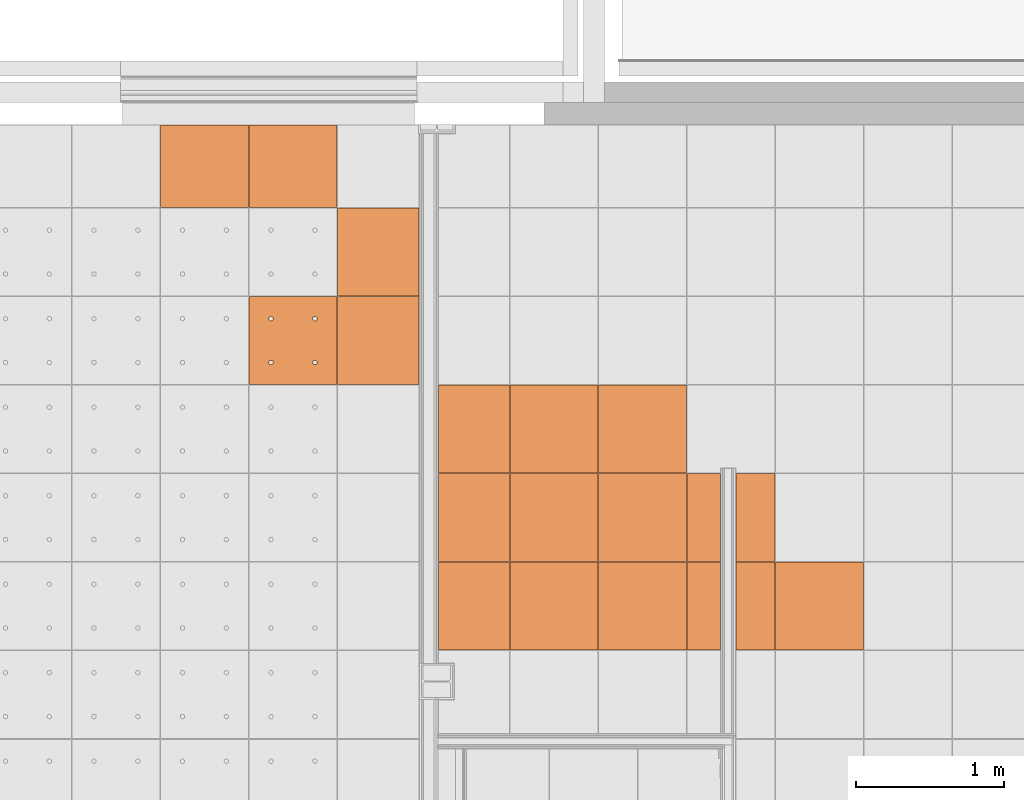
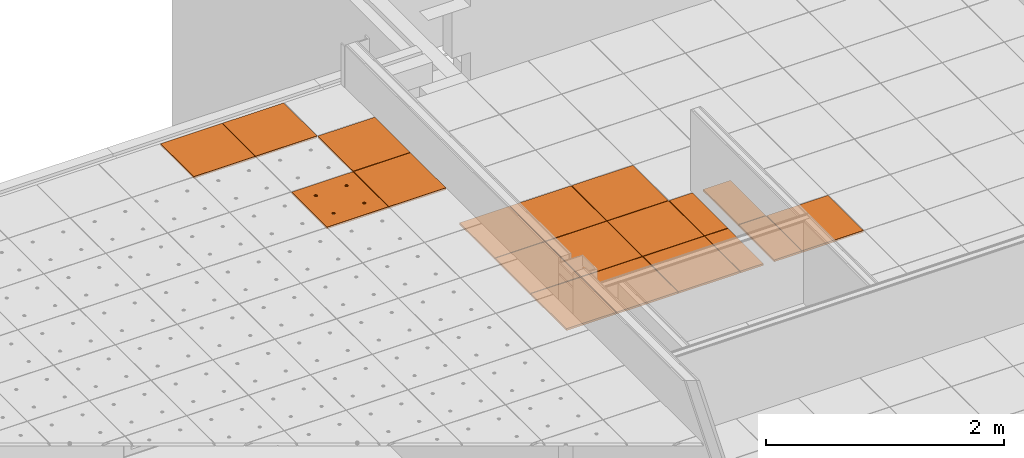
# One storey, part 310 of 338: 19 proxies, 2 elements without a shape of their own.
"""IFC2X3 building model written with IfcOpenShell, lengths in millimetres."""

import ifcopenshell
import ifcopenshell.guid

model = None  # the IFC model being written
_history = None  # IfcOwnerHistory: only IFC2X3 demands one
_inside = {}  # id of a spatial element -> (the spatial element, [elements in it])
_under = {}  # id of a project, library or spatial element -> (it, [spatial elements below it])
_declared = {}  # id of a project -> (the project, [libraries it declares])
_typed = {}  # id of a type object -> (the type object, [elements of that type])
_made_of = {}  # id of a material, layer set ... -> (it, [elements and type objects made of it])


def new_model(schema):
    """Start an empty IFC model of exactly this schema.

    Asked for "IFC4X3", IfcOpenShell would pick the latest addendum, in which some entities
    have other attributes; the version numbers below select the first issue.
    IFC2X3 requires an IfcOwnerHistory on every rooted entity: one is made here for all.
    """
    global model, _history
    if schema == "IFC4X3":
        model = ifcopenshell.file(schema_version=(4, 3, 0, 0))
    else:
        model = ifcopenshell.file(schema=schema)
    _inside.clear()
    _under.clear()
    _declared.clear()
    _typed.clear()
    _made_of.clear()
    _history = None
    if model.schema == "IFC2X3":
        org = make("IfcOrganization", Name="unknown")
        user = make(
            "IfcPersonAndOrganization",
            ThePerson=make("IfcPerson", FamilyName="unknown"),
            TheOrganization=org,
        )
        app = make(
            "IfcApplication",
            ApplicationDeveloper=org,
            Version="unknown",
            ApplicationFullName="unknown",
            ApplicationIdentifier="unknown",
        )
        _history = make(
            "IfcOwnerHistory",
            OwningUser=user,
            OwningApplication=app,
            ChangeAction="ADDED",
            CreationDate=0,
        )
    return model


def make(cls, **values):
    """One entity of the class cls with the attributes given. An attribute that is None is left unset."""
    return model.create_entity(
        cls, **{name: value for name, value in values.items() if value is not None}
    )


def entity(cls, *values):
    """Any entity or typed value of the class cls, its attributes in the order of the schema. None: left unset."""
    e = model.create_entity(cls)
    for i, value in enumerate(values):
        if value is not None:
            e[i] = value
    return e


def rooted(cls, **values):
    """An entity with a GlobalId (a new one), such as an element, a storey or a relation."""
    return make(cls, GlobalId=ifcopenshell.guid.new(), OwnerHistory=_history, **values)


def si_unit(unit_type, name, prefix=None):
    """IfcSIUnit, for example si_unit("LENGTHUNIT", "METRE", prefix="MILLI")."""
    return make("IfcSIUnit", UnitType=unit_type, Prefix=prefix, Name=name)


def converted_unit(unit_type, name, factor, base, dimensions=None, offset=None):
    """IfcConversionBasedUnit, such as the inch: factor (a typed value) times the base unit."""
    return make(
        "IfcConversionBasedUnit"
        if offset is None
        else "IfcConversionBasedUnitWithOffset",
        ConversionOffset=offset,
        Dimensions=None
        if dimensions is None
        else entity("IfcDimensionalExponents", *dimensions),
        UnitType=unit_type,
        Name=name,
        ConversionFactor=make(
            "IfcMeasureWithUnit", ValueComponent=factor, UnitComponent=base
        ),
    )


def derived_unit(unit_type, elements):
    """IfcDerivedUnit: a product of units, each with its exponent."""
    return make(
        "IfcDerivedUnit",
        Elements=[
            make("IfcDerivedUnitElement", Unit=unit, Exponent=power)
            for unit, power in elements
        ],
        UnitType=unit_type,
    )


def money_unit(currency):
    """IfcMonetaryUnit."""
    return make("IfcMonetaryUnit", Currency=currency)


def assignment(units):
    """IfcUnitAssignment: the units of a project."""
    return None if units is None else make("IfcUnitAssignment", Units=units)


def point(xyz):
    """IfcCartesianPoint."""
    return None if xyz is None else make("IfcCartesianPoint", Coordinates=xyz)


def direction(xyz):
    """IfcDirection."""
    return None if xyz is None else make("IfcDirection", DirectionRatios=xyz)


def frame(location, z_axis=None, x_axis=None):
    """IfcAxis2Placement3D, a coordinate frame: its origin and axes. An axis left out is left unset."""
    return make(
        "IfcAxis2Placement3D",
        Location=point(location),
        Axis=direction(z_axis),
        RefDirection=direction(x_axis),
    )


def origin_with_axes():
    """The frame at (0, 0, 0) with the z axis (0, 0, 1) and the x axis (1, 0, 0) written out."""
    return frame((0.0, 0.0, 0.0), z_axis=(0.0, 0.0, 1.0), x_axis=(1.0, 0.0, 0.0))


def place(relative_to, where):
    """IfcLocalPlacement: puts the frame where relative to a parent placement (None: the world)."""
    return make(
        "IfcLocalPlacement", PlacementRelTo=relative_to, RelativePlacement=where
    )


def context(
    kind, dimensions, precision=None, world=None, true_north=None, identifier=None
):
    """IfcGeometricRepresentationContext, for example the 3D "Model" context."""
    return make(
        "IfcGeometricRepresentationContext",
        ContextIdentifier=identifier,
        ContextType=kind,
        CoordinateSpaceDimension=dimensions,
        Precision=precision,
        WorldCoordinateSystem=world,
        TrueNorth=true_north,
    )


def subcontext(parent, identifier, kind, view, scale=None):
    """IfcGeometricRepresentationSubContext, for example "Body" below "Model"."""
    return make(
        "IfcGeometricRepresentationSubContext",
        ContextIdentifier=identifier,
        ContextType=kind,
        ParentContext=parent,
        TargetScale=scale,
        TargetView=view,
    )


def project(units=None, contexts=None):
    """IfcProject with its units and contexts."""
    return rooted(
        "IfcProject",
        Name="project",
        RepresentationContexts=contexts,
        UnitsInContext=assignment(units),
    )


def spatial(cls, under=None, at=None, **own):
    """A site, building, storey or space (cls), placed at a placement, below another one or the project."""
    s = rooted(cls, ObjectPlacement=at, **own)
    if under is not None:
        _under.setdefault(under.id(), (under, []))[1].append(s)
    return s


def faces_of(points, faces, orient=None, outer=None):
    """IfcFace entities. A face is a list of loops; a loop is a list of indices into points, from 0.

    orient and outer hold one flag for each loop. By default every Orientation is true, the
    first loop of a face is its IfcFaceOuterBound and the others are IfcFaceBound.
    """
    made = []
    for i, loops in enumerate(faces):
        bounds = []
        for j, loop in enumerate(loops):
            is_outer = j == 0 if outer is None else outer[i][j]
            bounds.append(
                make(
                    "IfcFaceOuterBound" if is_outer else "IfcFaceBound",
                    Bound=make("IfcPolyLoop", Polygon=[points[k] for k in loop]),
                    Orientation=True if orient is None else orient[i][j],
                )
            )
        made.append(make("IfcFace", Bounds=bounds))
    return made


def faceted_brep(points, faces, orient=None, outer=None, voids=None):
    """IfcFacetedBrep: a solid bounded by flat faces; with voids (closed shells), ...WithVoids."""
    shared = [point(p) for p in points]
    hull = make("IfcClosedShell", CfsFaces=faces_of(shared, faces, orient, outer))
    if voids is None:
        return make("IfcFacetedBrep", Outer=hull)
    return make(
        "IfcFacetedBrepWithVoids",
        Outer=hull,
        Voids=[
            make(cls, CfsFaces=faces_of(shared, fs, o, b)) for cls, fs, o, b in voids
        ],
    )


def shape(context_of_items, identifier, shape_type, items):
    """IfcShapeRepresentation: the items that make up one representation, for example the "Body"."""
    return make(
        "IfcShapeRepresentation",
        ContextOfItems=context_of_items,
        RepresentationIdentifier=identifier,
        RepresentationType=shape_type,
        Items=items,
    )


def source(mapping_origin, context_of_items, identifier, shape_type, items):
    """IfcRepresentationMap: a shape defined once, which mapped items show again and again."""
    return make(
        "IfcRepresentationMap",
        MappingOrigin=mapping_origin,
        MappedRepresentation=shape(context_of_items, identifier, shape_type, items),
    )


def transform(
    local_origin,
    x_axis=None,
    y_axis=None,
    z_axis=None,
    scale=None,
    scale2=None,
    scale3=None,
    uniform=True,
):
    """IfcCartesianTransformationOperator3D, or its non-uniform kind. x_axis, y_axis, z_axis: its Axis1, 2, 3."""
    if uniform:
        return make(
            "IfcCartesianTransformationOperator3D",
            Axis1=direction(x_axis),
            Axis2=direction(y_axis),
            LocalOrigin=point(local_origin),
            Scale=scale,
            Axis3=direction(z_axis),
        )
    return make(
        "IfcCartesianTransformationOperator3DnonUniform",
        Axis1=direction(x_axis),
        Axis2=direction(y_axis),
        LocalOrigin=point(local_origin),
        Scale=scale,
        Axis3=direction(z_axis),
        Scale2=scale2,
        Scale3=scale3,
    )


def mapped(mapping_source, mapping_target):
    """IfcMappedItem: shows the shape of a source again, moved by a transform."""
    return make(
        "IfcMappedItem", MappingSource=mapping_source, MappingTarget=mapping_target
    )


def material(Name=None, Category=None):
    """IfcMaterial."""
    return make("IfcMaterial", Name=Name, Category=Category)


def made_of(thing, what):
    """Note that an element or type object is made of a material, layer set ...; save() writes the relation."""
    if what is not None:
        _made_of.setdefault(what.id(), (what, []))[1].append(thing)
    return thing


def type_object(cls, material=None, **own):
    """A type object (cls), such as IfcWallType, which elements share."""
    return made_of(rooted(cls, **own), material)


def type_shapes(of_type, sources):
    """Give a type object the sources (RepresentationMaps) that its elements show as mapped items."""
    of_type.RepresentationMaps = sources


def element(
    cls,
    number,
    at=None,
    inside=None,
    cuts=None,
    type_object=None,
    material=None,
    context=None,
    identifier="Body",
    shape_type=None,
    held_by="IfcProductDefinitionShape",
    body=None,
    shapes=None,
    **own,
):
    """One element of the class cls, such as IfcWall. Its Tag is "e" and its number.

    at: its placement. inside: the storey or other place that contains it. cuts: it is an
    opening in that element (IfcRelVoidsElement). A single representation is given by context,
    identifier, shape_type and body (its items); several are given by shapes. held_by: the class
    of the entity that holds the representations. save() writes the other relations.
    """
    e = rooted(cls, Tag="e%d" % number, ObjectPlacement=at, **own)
    if body is not None:
        shapes = [shape(context, identifier, shape_type, body)]
    if shapes is not None:
        e.Representation = make(held_by, Representations=shapes)
    if inside is not None:
        _inside.setdefault(inside.id(), (inside, []))[1].append(e)
    if cuts is not None:
        rooted(
            "IfcRelVoidsElement", RelatingBuildingElement=cuts, RelatedOpeningElement=e
        )
    if type_object is not None:
        _typed.setdefault(type_object.id(), (type_object, []))[1].append(e)
    return made_of(e, material)


def aggregate(whole, parts):
    """IfcRelAggregates: a whole, such as a stair, and the parts it consists of."""
    return rooted("IfcRelAggregates", RelatingObject=whole, RelatedObjects=parts)


def save(model, path):
    """Write the relations noted so far, then the file.

    IfcRelAggregates (storeys below a building ...), IfcRelContainedInSpatialStructure (elements
    in a storey), IfcRelDefinesByType, IfcRelAssociatesMaterial and IfcRelDeclares: one each for
    every whole, place, type object, material and project.
    """
    for whole, parts in _under.values():
        aggregate(whole, parts)
    for where, things in _inside.values():
        rooted(
            "IfcRelContainedInSpatialStructure",
            RelatedElements=things,
            RelatingStructure=where,
        )
    for kind, things in _typed.values():
        rooted("IfcRelDefinesByType", RelatedObjects=things, RelatingType=kind)
    for what, things in _made_of.values():
        rooted("IfcRelAssociatesMaterial", RelatedObjects=things, RelatingMaterial=what)
    for by, libraries in _declared.values():
        rooted("IfcRelDeclares", RelatingContext=by, RelatedDefinitions=libraries)
    model.write(path)


model = new_model("IFC2X3")

# Units and contexts
model_context = context("Model", 3, precision=0.01, world=origin_with_axes(), true_north=direction((0.0, 1.0)))
plan_context = context("Plan", 3, precision=0.01, world=origin_with_axes(), true_north=direction((0.0, 1.0)))
body_context = subcontext(model_context, "Body", "Model", "MODEL_VIEW")
ifc_project = project(units=[si_unit("LENGTHUNIT", "METRE", prefix="MILLI"), si_unit("AREAUNIT", "SQUARE_METRE"), si_unit("VOLUMEUNIT", "CUBIC_METRE"), converted_unit("PLANEANGLEUNIT", "DEGREE", entity("IfcPlaneAngleMeasure", 0.0174532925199), si_unit("PLANEANGLEUNIT", "RADIAN"), dimensions=[0, 0, 0, 0, 0, 0, 0]), money_unit("EUR"), converted_unit("TIMEUNIT", "Year", entity("IfcTimeMeasure", 31556926.0), si_unit("TIMEUNIT", "SECOND"), dimensions=[0, 0, 1, 0, 0, 0, 0]), si_unit("MASSUNIT", "GRAM", prefix="KILO"), si_unit("THERMODYNAMICTEMPERATUREUNIT", "DEGREE_CELSIUS"), si_unit("LUMINOUSINTENSITYUNIT", "LUMEN"), si_unit("ENERGYUNIT", "JOULE", prefix="MEGA"), derived_unit("THERMALCONDUCTANCEUNIT", [(si_unit("POWERUNIT", "WATT"), 1), (si_unit("LENGTHUNIT", "METRE"), -1), (si_unit("THERMODYNAMICTEMPERATUREUNIT", "KELVIN"), -1)]), derived_unit("SPECIFICHEATCAPACITYUNIT", [(si_unit("ENERGYUNIT", "JOULE"), 1), (si_unit("MASSUNIT", "GRAM", prefix="KILO"), -1), (si_unit("THERMODYNAMICTEMPERATUREUNIT", "KELVIN"), -1)]), derived_unit("MASSDENSITYUNIT", [(si_unit("MASSUNIT", "GRAM", prefix="KILO"), 1), (si_unit("VOLUMEUNIT", "CUBIC_METRE"), -1)])], contexts=[model_context, plan_context])

# Site, building, storey
site_placement = place(None, origin_with_axes())
site = spatial("IfcSite", under=ifc_project, at=site_placement, Name="Fortuinstraat Woensdrecht", CompositionType="ELEMENT")
building_placement = place(site_placement, origin_with_axes())
building = spatial("IfcBuilding", under=site, at=building_placement, Name="IKC Fortuna", CompositionType="ELEMENT")
storey_placement = place(building_placement, origin_with_axes())
storey = spatial("IfcBuildingStorey", under=building, at=storey_placement, Name="00 begane grond", CompositionType="ELEMENT", Elevation=0.0)

# Covering, proxies
covering_type = type_object("IfcCoveringType", Name="Curtain Wall Type", PredefinedType="CEILING")
covering_1_placement = place(storey_placement, frame((34473.6590305, 30882.3889696, 2810.0), z_axis=(0.0, 0.0, 1.0), x_axis=(1.0, 0.0, 0.0)))
covering_1 = element("IfcCovering", 1, at=covering_1_placement, inside=storey, type_object=covering_type, Name="45_Plafondafwerking_P02 v", PredefinedType="CEILING")
ifc_material = material(Name="Gipsplaat")
building_element_proxy_type_1 = type_object("IfcBuildingElementProxyType", Name="Distinct Panel 600 x 600 x 20", PredefinedType="NOTDEFINED")
shared_shape_1 = source(origin_with_axes(), body_context, "Body", "Brep", [
    faceted_brep([(-2.49999999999, 2.5, -10.0), (-2.49999999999, 2.5, 10.0), (-597.5, 2.49999999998, 10.0), (-597.5, 2.49999999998, -10.0), (-2.50000000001, 597.5, -10.0), (-2.50000000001, 597.5, 10.0), (-597.5, 597.5, 10.0), (-597.5, 597.5, -10.0)], [[[0, 1, 2, 3]], [[4, 5, 1, 0]], [[1, 5, 6, 2]], [[3, 2, 6, 7]], [[0, 3, 7, 4]], [[7, 6, 5, 4]]]),
])
type_shapes(building_element_proxy_type_1, [shared_shape_1])
proxy_1_placement = place(covering_1_placement, frame((-4709.76800248, 2400.0, 0.0), z_axis=(0.0, 0.0, 1.0), x_axis=(1.0, 0.0, 0.0)))
proxy_1 = element("IfcBuildingElementProxy", 2, at=proxy_1_placement, type_object=building_element_proxy_type_1, material=ifc_material, Name="__Panel-D", context=body_context, shape_type="MappedRepresentation", body=[
    mapped(shared_shape_1, transform((-300.0, 300.0, 0.0), x_axis=(-1.0, 0.0, 0.0), y_axis=(0.0, -1.0, 0.0), z_axis=(0.0, 0.0, 1.0))),
])
proxy_2_placement = place(covering_1_placement, frame((-4709.76800248, 1800.0, 0.0), z_axis=(0.0, 0.0, 1.0), x_axis=(1.0, 0.0, 0.0)))
proxy_2 = element("IfcBuildingElementProxy", 3, at=proxy_2_placement, type_object=building_element_proxy_type_1, material=ifc_material, Name="__Panel-D", context=body_context, shape_type="MappedRepresentation", body=[
    mapped(shared_shape_1, transform((-300.0, 300.0, 0.0), x_axis=(-1.0, 0.0, 0.0), y_axis=(0.0, -1.0, 0.0), z_axis=(0.0, 0.0, 1.0))),
])
proxy_3_placement = place(covering_1_placement, frame((-4709.76800248, 1200.0, 0.0), z_axis=(0.0, 0.0, 1.0), x_axis=(1.0, 0.0, 0.0)))
proxy_3 = element("IfcBuildingElementProxy", 4, at=proxy_3_placement, type_object=building_element_proxy_type_1, material=ifc_material, Name="__Panel-D", context=body_context, shape_type="MappedRepresentation", body=[
    mapped(shared_shape_1, transform((-300.0, 300.0, 0.0), x_axis=(-1.0, 0.0, 0.0), y_axis=(0.0, -1.0, 0.0), z_axis=(0.0, 0.0, 1.0))),
])
proxy_4_placement = place(covering_1_placement, frame((-4109.76800248, 2400.0, 0.0), z_axis=(0.0, 0.0, 1.0), x_axis=(1.0, 0.0, 0.0)))
proxy_4 = element("IfcBuildingElementProxy", 5, at=proxy_4_placement, type_object=building_element_proxy_type_1, material=ifc_material, Name="__Panel-D", context=body_context, shape_type="MappedRepresentation", body=[
    mapped(shared_shape_1, transform((-300.0, 300.0, 0.0), x_axis=(-1.0, 0.0, 0.0), y_axis=(0.0, -1.0, 0.0), z_axis=(0.0, 0.0, 1.0))),
])
proxy_5_placement = place(covering_1_placement, frame((-4109.76800248, 1800.0, 0.0), z_axis=(0.0, 0.0, 1.0), x_axis=(1.0, 0.0, 0.0)))
proxy_5 = element("IfcBuildingElementProxy", 6, at=proxy_5_placement, type_object=building_element_proxy_type_1, material=ifc_material, Name="__Panel-D", context=body_context, shape_type="MappedRepresentation", body=[
    mapped(shared_shape_1, transform((-300.0, 300.0, 0.0), x_axis=(-1.0, 0.0, 0.0), y_axis=(0.0, -1.0, 0.0), z_axis=(0.0, 0.0, 1.0))),
])
proxy_6_placement = place(covering_1_placement, frame((-4109.76800248, 1200.0, 0.0), z_axis=(0.0, 0.0, 1.0), x_axis=(1.0, 0.0, 0.0)))
proxy_6 = element("IfcBuildingElementProxy", 7, at=proxy_6_placement, type_object=building_element_proxy_type_1, material=ifc_material, Name="__Panel-D", context=body_context, shape_type="MappedRepresentation", body=[
    mapped(shared_shape_1, transform((-300.0, 300.0, 0.0), x_axis=(-1.0, 0.0, 0.0), y_axis=(0.0, -1.0, 0.0), z_axis=(0.0, 0.0, 1.0))),
])
proxy_7_placement = place(covering_1_placement, frame((-2909.76800248, 1200.0, 0.0), z_axis=(0.0, 0.0, 1.0), x_axis=(1.0, 0.0, 0.0)))
proxy_7 = element("IfcBuildingElementProxy", 8, at=proxy_7_placement, type_object=building_element_proxy_type_1, material=ifc_material, Name="__Panel-D", context=body_context, shape_type="MappedRepresentation", body=[
    mapped(shared_shape_1, transform((-300.0, 300.0, 0.0), x_axis=(-1.0, 0.0, 0.0), y_axis=(0.0, -1.0, 0.0), z_axis=(0.0, 0.0, 1.0))),
])

# Covering, proxy
covering_2_placement = place(storey_placement, frame((24394.3550152, 31482.3495284, 3210.0), z_axis=(0.0, 0.0, 1.0), x_axis=(1.0, 0.0, 0.0)))
covering_2 = element("IfcCovering", 9, at=covering_2_placement, inside=storey, type_object=covering_type, Name="45_Plafondafwerking_P01", PredefinedType="CEILING")
building_element_proxy_type_2 = type_object("IfcBuildingElementProxyType", Name="Main Panel 600 x 600 x 20", PredefinedType="NOTDEFINED")
shared_shape_2 = source(origin_with_axes(), body_context, "Body", "Brep", [
    faceted_brep([(2.49999999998, 2.49999999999, -10.0), (300.0, 2.49999999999, -10.0), (300.0, 2.49999999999, 10.0), (2.49999999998, 2.49999999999, 10.0), (2.49999999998, 300.0, -10.0), (2.49999999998, 597.5, -10.0), (300.0, 597.5, -10.0), (597.5, 597.5, -10.0), (597.5, 300.0, -10.0), (597.5, 2.49999999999, -10.0), (166.25, 450.06232995, -10.0), (165.79423259, 452.64711538, -10.0), (164.896546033, 455.11348892, -10.0), (163.58421608, 457.38651108, -10.0), (161.897117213, 459.39711721, -10.0), (159.886511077, 461.08421608, -10.0), (157.613488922, 462.39654603, -10.0), (155.147115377, 463.29423259, -10.0), (152.562329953, 463.75, -10.0), (149.937670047, 463.75, -10.0), (147.352884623, 463.29423259, -10.0), (144.886511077, 462.39654603, -10.0), (142.613488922, 461.08421608, -10.0), (140.602882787, 459.39711721, -10.0), (138.91578392, 457.38651108, -10.0), (137.603453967, 455.11348892, -10.0), (136.705767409, 452.64711538, -10.0), (136.25, 450.06232995, -10.0), (136.25, 448.75, -10.0), (136.25, 447.43767005, -10.0), (136.705767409, 444.85288462, -10.0), (137.603453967, 442.38651108, -10.0), (138.91578392, 440.11348892, -10.0), (140.602882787, 438.10288279, -10.0), (142.613488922, 436.41578392, -10.0), (144.886511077, 435.10345397, -10.0), (147.352884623, 434.20576741, -10.0), (149.937670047, 433.75, -10.0), (152.562329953, 433.75, -10.0), (155.147115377, 434.20576741, -10.0), (157.613488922, 435.10345397, -10.0), (159.886511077, 436.41578392, -10.0), (161.897117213, 438.10288279, -10.0), (163.58421608, 440.11348892, -10.0), (164.896546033, 442.38651108, -10.0), (165.79423259, 444.85288462, -10.0), (166.25, 447.43767005, -10.0), (463.75, 450.06232995, -10.0), (463.29423259, 452.64711538, -10.0), (462.396546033, 455.11348892, -10.0), (461.08421608, 457.38651108, -10.0), (459.397117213, 459.39711721, -10.0), (457.386511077, 461.08421608, -10.0), (455.113488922, 462.39654603, -10.0), (452.647115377, 463.29423259, -10.0), (450.062329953, 463.75, -10.0), (447.437670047, 463.75, -10.0), (444.852884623, 463.29423259, -10.0), (442.386511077, 462.39654603, -10.0), (440.113488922, 461.08421608, -10.0), (438.102882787, 459.39711721, -10.0), (436.41578392, 457.38651108, -10.0), (435.103453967, 455.11348892, -10.0), (434.205767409, 452.64711538, -10.0), (433.75, 450.06232995, -10.0), (433.75, 448.75, -10.0), (433.75, 447.43767005, -10.0), (434.205767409, 444.85288462, -10.0), (435.103453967, 442.38651108, -10.0), (436.41578392, 440.11348892, -10.0), (438.102882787, 438.10288279, -10.0), (440.113488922, 436.41578392, -10.0), (442.386511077, 435.10345397, -10.0), (444.852884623, 434.20576741, -10.0), (447.437670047, 433.75, -10.0), (450.062329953, 433.75, -10.0), (452.647115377, 434.20576741, -10.0), (455.113488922, 435.10345397, -10.0), (457.386511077, 436.41578392, -10.0), (459.397117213, 438.10288279, -10.0), (461.08421608, 440.11348892, -10.0), (462.396546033, 442.38651108, -10.0), (463.29423259, 444.85288462, -10.0), (463.75, 447.43767005, -10.0), (463.75, 152.56232995, -10.0), (463.29423259, 155.14711538, -10.0), (462.396546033, 157.61348892, -10.0), (461.08421608, 159.88651108, -10.0), (459.397117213, 161.89711721, -10.0), (457.386511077, 163.58421608, -10.0), (455.113488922, 164.89654603, -10.0), (452.647115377, 165.79423259, -10.0), (450.062329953, 166.25, -10.0), (447.437670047, 166.25, -10.0), (444.852884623, 165.79423259, -10.0), (442.386511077, 164.89654603, -10.0), (440.113488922, 163.58421608, -10.0), (438.102882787, 161.89711721, -10.0), (436.41578392, 159.88651108, -10.0), (435.103453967, 157.61348892, -10.0), (434.205767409, 155.14711538, -10.0), (433.75, 152.56232995, -10.0), (433.75, 151.25, -10.0), (433.75, 149.93767005, -10.0), (434.205767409, 147.35288462, -10.0), (435.103453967, 144.88651108, -10.0), (436.41578392, 142.61348892, -10.0), (438.102882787, 140.60288279, -10.0), (440.113488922, 138.91578392, -10.0), (442.386511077, 137.60345397, -10.0), (444.852884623, 136.70576741, -10.0), (447.437670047, 136.25, -10.0), (450.062329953, 136.25, -10.0), (452.647115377, 136.70576741, -10.0), (455.113488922, 137.60345397, -10.0), (457.386511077, 138.91578392, -10.0), (459.397117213, 140.60288279, -10.0), (461.08421608, 142.61348892, -10.0), (462.396546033, 144.88651108, -10.0), (463.29423259, 147.35288462, -10.0), (463.75, 149.93767005, -10.0), (166.25, 152.56232995, -10.0), (165.79423259, 155.14711538, -10.0), (164.896546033, 157.61348892, -10.0), (163.58421608, 159.88651108, -10.0), (161.897117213, 161.89711721, -10.0), (159.886511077, 163.58421608, -10.0), (157.613488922, 164.89654603, -10.0), (155.147115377, 165.79423259, -10.0), (152.562329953, 166.25, -10.0), (149.937670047, 166.25, -10.0), (147.352884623, 165.79423259, -10.0), (144.886511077, 164.89654603, -10.0), (142.613488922, 163.58421608, -10.0), (140.602882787, 161.89711721, -10.0), (138.91578392, 159.88651108, -10.0), (137.603453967, 157.61348892, -10.0), (136.705767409, 155.14711538, -10.0), (136.25, 152.56232995, -10.0), (136.25, 151.25, -10.0), (136.25, 149.93767005, -10.0), (136.705767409, 147.35288462, -10.0), (137.603453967, 144.88651108, -10.0), (138.91578392, 142.61348892, -10.0), (140.602882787, 140.60288279, -10.0), (142.613488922, 138.91578392, -10.0), (144.886511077, 137.60345397, -10.0), (147.352884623, 136.70576741, -10.0), (149.937670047, 136.25, -10.0), (152.562329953, 136.25, -10.0), (155.147115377, 136.70576741, -10.0), (157.613488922, 137.60345397, -10.0), (159.886511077, 138.91578392, -10.0), (161.897117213, 140.60288279, -10.0), (163.58421608, 142.61348892, -10.0), (164.896546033, 144.88651108, -10.0), (165.79423259, 147.35288462, -10.0), (166.25, 149.93767005, -10.0), (597.5, 2.49999999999, 10.0), (597.5, 300.0, 10.0), (597.5, 597.5, 10.0), (300.0, 597.5, 10.0), (2.49999999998, 597.5, 10.0), (2.49999999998, 300.0, 10.0), (166.25, 450.06232995, 10.0), (166.25, 447.43767005, 10.0), (165.79423259, 444.85288462, 10.0), (164.896546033, 442.38651108, 10.0), (163.58421608, 440.11348892, 10.0), (161.897117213, 438.10288279, 10.0), (159.886511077, 436.41578392, 10.0), (157.613488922, 435.10345397, 10.0), (155.147115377, 434.20576741, 10.0), (152.562329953, 433.75, 10.0), (149.937670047, 433.75, 10.0), (147.352884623, 434.20576741, 10.0), (144.886511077, 435.10345397, 10.0), (142.613488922, 436.41578392, 10.0), (140.602882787, 438.10288279, 10.0), (138.91578392, 440.11348892, 10.0), (137.603453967, 442.38651108, 10.0), (136.705767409, 444.85288462, 10.0), (136.25, 447.43767005, 10.0), (136.25, 448.75, 10.0), (136.25, 450.06232995, 10.0), (136.705767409, 452.64711538, 10.0), (137.603453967, 455.11348892, 10.0), (138.91578392, 457.38651108, 10.0), (140.602882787, 459.39711721, 10.0), (142.613488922, 461.08421608, 10.0), (144.886511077, 462.39654603, 10.0), (147.352884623, 463.29423259, 10.0), (149.937670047, 463.75, 10.0), (152.562329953, 463.75, 10.0), (155.147115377, 463.29423259, 10.0), (157.613488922, 462.39654603, 10.0), (159.886511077, 461.08421608, 10.0), (161.897117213, 459.39711721, 10.0), (163.58421608, 457.38651108, 10.0), (164.896546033, 455.11348892, 10.0), (165.79423259, 452.64711538, 10.0), (463.75, 450.06232995, 10.0), (463.75, 447.43767005, 10.0), (463.29423259, 444.85288462, 10.0), (462.396546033, 442.38651108, 10.0), (461.08421608, 440.11348892, 10.0), (459.397117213, 438.10288279, 10.0), (457.386511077, 436.41578392, 10.0), (455.113488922, 435.10345397, 10.0), (452.647115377, 434.20576741, 10.0), (450.062329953, 433.75, 10.0), (447.437670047, 433.75, 10.0), (444.852884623, 434.20576741, 10.0), (442.386511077, 435.10345397, 10.0), (440.113488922, 436.41578392, 10.0), (438.102882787, 438.10288279, 10.0), (436.41578392, 440.11348892, 10.0), (435.103453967, 442.38651108, 10.0), (434.205767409, 444.85288462, 10.0), (433.75, 447.43767005, 10.0), (433.75, 448.75, 10.0), (433.75, 450.06232995, 10.0), (434.205767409, 452.64711538, 10.0), (435.103453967, 455.11348892, 10.0), (436.41578392, 457.38651108, 10.0), (438.102882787, 459.39711721, 10.0), (440.113488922, 461.08421608, 10.0), (442.386511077, 462.39654603, 10.0), (444.852884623, 463.29423259, 10.0), (447.437670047, 463.75, 10.0), (450.062329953, 463.75, 10.0), (452.647115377, 463.29423259, 10.0), (455.113488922, 462.39654603, 10.0), (457.386511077, 461.08421608, 10.0), (459.397117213, 459.39711721, 10.0), (461.08421608, 457.38651108, 10.0), (462.396546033, 455.11348892, 10.0), (463.29423259, 452.64711538, 10.0), (463.75, 152.56232995, 10.0), (463.75, 149.93767005, 10.0), (463.29423259, 147.35288462, 10.0), (462.396546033, 144.88651108, 10.0), (461.08421608, 142.61348892, 10.0), (459.397117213, 140.60288279, 10.0), (457.386511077, 138.91578392, 10.0), (455.113488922, 137.60345397, 10.0), (452.647115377, 136.70576741, 10.0), (450.062329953, 136.25, 10.0), (447.437670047, 136.25, 10.0), (444.852884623, 136.70576741, 10.0), (442.386511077, 137.60345397, 10.0), (440.113488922, 138.91578392, 10.0), (438.102882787, 140.60288279, 10.0), (436.41578392, 142.61348892, 10.0), (435.103453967, 144.88651108, 10.0), (434.205767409, 147.35288462, 10.0), (433.75, 149.93767005, 10.0), (433.75, 151.25, 10.0), (433.75, 152.56232995, 10.0), (434.205767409, 155.14711538, 10.0), (435.103453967, 157.61348892, 10.0), (436.41578392, 159.88651108, 10.0), (438.102882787, 161.89711721, 10.0), (440.113488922, 163.58421608, 10.0), (442.386511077, 164.89654603, 10.0), (444.852884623, 165.79423259, 10.0), (447.437670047, 166.25, 10.0), (450.062329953, 166.25, 10.0), (452.647115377, 165.79423259, 10.0), (455.113488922, 164.89654603, 10.0), (457.386511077, 163.58421608, 10.0), (459.397117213, 161.89711721, 10.0), (461.08421608, 159.88651108, 10.0), (462.396546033, 157.61348892, 10.0), (463.29423259, 155.14711538, 10.0), (166.25, 152.56232995, 10.0), (166.25, 149.93767005, 10.0), (165.79423259, 147.35288462, 10.0), (164.896546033, 144.88651108, 10.0), (163.58421608, 142.61348892, 10.0), (161.897117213, 140.60288279, 10.0), (159.886511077, 138.91578392, 10.0), (157.613488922, 137.60345397, 10.0), (155.147115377, 136.70576741, 10.0), (152.562329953, 136.25, 10.0), (149.937670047, 136.25, 10.0), (147.352884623, 136.70576741, 10.0), (144.886511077, 137.60345397, 10.0), (142.613488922, 138.91578392, 10.0), (140.602882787, 140.60288279, 10.0), (138.91578392, 142.61348892, 10.0), (137.603453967, 144.88651108, 10.0), (136.705767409, 147.35288462, 10.0), (136.25, 149.93767005, 10.0), (136.25, 151.25, 10.0), (136.25, 152.56232995, 10.0), (136.705767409, 155.14711538, 10.0), (137.603453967, 157.61348892, 10.0), (138.91578392, 159.88651108, 10.0), (140.602882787, 161.89711721, 10.0), (142.613488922, 163.58421608, 10.0), (144.886511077, 164.89654603, 10.0), (147.352884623, 165.79423259, 10.0), (149.937670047, 166.25, 10.0), (152.562329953, 166.25, 10.0), (155.147115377, 165.79423259, 10.0), (157.613488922, 164.89654603, 10.0), (159.886511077, 163.58421608, 10.0), (161.897117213, 161.89711721, 10.0), (163.58421608, 159.88651108, 10.0), (164.896546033, 157.61348892, 10.0), (165.79423259, 155.14711538, 10.0)], [[[0, 1, 2, 3]], [[0, 4, 5, 6, 7, 8, 9, 1], [10, 11, 12, 13, 14, 15, 16, 17, 18, 19, 20, 21, 22, 23, 24, 25, 26, 27, 28, 29, 30, 31, 32, 33, 34, 35, 36, 37, 38, 39, 40, 41, 42, 43, 44, 45, 46], [47, 48, 49, 50, 51, 52, 53, 54, 55, 56, 57, 58, 59, 60, 61, 62, 63, 64, 65, 66, 67, 68, 69, 70, 71, 72, 73, 74, 75, 76, 77, 78, 79, 80, 81, 82, 83], [84, 85, 86, 87, 88, 89, 90, 91, 92, 93, 94, 95, 96, 97, 98, 99, 100, 101, 102, 103, 104, 105, 106, 107, 108, 109, 110, 111, 112, 113, 114, 115, 116, 117, 118, 119, 120], [121, 122, 123, 124, 125, 126, 127, 128, 129, 130, 131, 132, 133, 134, 135, 136, 137, 138, 139, 140, 141, 142, 143, 144, 145, 146, 147, 148, 149, 150, 151, 152, 153, 154, 155, 156, 157]], [[1, 9, 158, 2]], [[3, 2, 158, 159, 160, 161, 162, 163], [164, 165, 166, 167, 168, 169, 170, 171, 172, 173, 174, 175, 176, 177, 178, 179, 180, 181, 182, 183, 184, 185, 186, 187, 188, 189, 190, 191, 192, 193, 194, 195, 196, 197, 198, 199, 200], [201, 202, 203, 204, 205, 206, 207, 208, 209, 210, 211, 212, 213, 214, 215, 216, 217, 218, 219, 220, 221, 222, 223, 224, 225, 226, 227, 228, 229, 230, 231, 232, 233, 234, 235, 236, 237], [238, 239, 240, 241, 242, 243, 244, 245, 246, 247, 248, 249, 250, 251, 252, 253, 254, 255, 256, 257, 258, 259, 260, 261, 262, 263, 264, 265, 266, 267, 268, 269, 270, 271, 272, 273, 274], [275, 276, 277, 278, 279, 280, 281, 282, 283, 284, 285, 286, 287, 288, 289, 290, 291, 292, 293, 294, 295, 296, 297, 298, 299, 300, 301, 302, 303, 304, 305, 306, 307, 308, 309, 310, 311]], [[4, 0, 3, 163]], [[5, 4, 163, 162]], [[6, 5, 162, 161]], [[7, 6, 161, 160]], [[8, 7, 160, 159]], [[9, 8, 159, 158]], [[11, 10, 164, 200]], [[12, 11, 200, 199]], [[13, 12, 199, 198]], [[14, 13, 198, 197]], [[15, 14, 197, 196]], [[16, 15, 196, 195]], [[17, 16, 195, 194]], [[18, 17, 194, 193]], [[19, 18, 193, 192]], [[20, 19, 192, 191]], [[21, 20, 191, 190]], [[22, 21, 190, 189]], [[23, 22, 189, 188]], [[24, 23, 188, 187]], [[25, 24, 187, 186]], [[26, 25, 186, 185]], [[27, 26, 185, 184]], [[28, 27, 184, 183]], [[29, 28, 183, 182]], [[30, 29, 182, 181]], [[31, 30, 181, 180]], [[32, 31, 180, 179]], [[33, 32, 179, 178]], [[34, 33, 178, 177]], [[35, 34, 177, 176]], [[36, 35, 176, 175]], [[37, 36, 175, 174]], [[38, 37, 174, 173]], [[39, 38, 173, 172]], [[40, 39, 172, 171]], [[41, 40, 171, 170]], [[42, 41, 170, 169]], [[43, 42, 169, 168]], [[44, 43, 168, 167]], [[45, 44, 167, 166]], [[46, 45, 166, 165]], [[10, 46, 165, 164]], [[48, 47, 201, 237]], [[49, 48, 237, 236]], [[50, 49, 236, 235]], [[51, 50, 235, 234]], [[52, 51, 234, 233]], [[53, 52, 233, 232]], [[54, 53, 232, 231]], [[55, 54, 231, 230]], [[56, 55, 230, 229]], [[57, 56, 229, 228]], [[58, 57, 228, 227]], [[59, 58, 227, 226]], [[60, 59, 226, 225]], [[61, 60, 225, 224]], [[62, 61, 224, 223]], [[63, 62, 223, 222]], [[64, 63, 222, 221]], [[65, 64, 221, 220]], [[66, 65, 220, 219]], [[67, 66, 219, 218]], [[68, 67, 218, 217]], [[69, 68, 217, 216]], [[70, 69, 216, 215]], [[71, 70, 215, 214]], [[72, 71, 214, 213]], [[73, 72, 213, 212]], [[74, 73, 212, 211]], [[75, 74, 211, 210]], [[76, 75, 210, 209]], [[77, 76, 209, 208]], [[78, 77, 208, 207]], [[79, 78, 207, 206]], [[80, 79, 206, 205]], [[81, 80, 205, 204]], [[82, 81, 204, 203]], [[83, 82, 203, 202]], [[47, 83, 202, 201]], [[85, 84, 238, 274]], [[86, 85, 274, 273]], [[87, 86, 273, 272]], [[88, 87, 272, 271]], [[89, 88, 271, 270]], [[90, 89, 270, 269]], [[91, 90, 269, 268]], [[92, 91, 268, 267]], [[93, 92, 267, 266]], [[94, 93, 266, 265]], [[95, 94, 265, 264]], [[96, 95, 264, 263]], [[97, 96, 263, 262]], [[98, 97, 262, 261]], [[99, 98, 261, 260]], [[100, 99, 260, 259]], [[101, 100, 259, 258]], [[102, 101, 258, 257]], [[103, 102, 257, 256]], [[104, 103, 256, 255]], [[105, 104, 255, 254]], [[106, 105, 254, 253]], [[107, 106, 253, 252]], [[108, 107, 252, 251]], [[109, 108, 251, 250]], [[110, 109, 250, 249]], [[111, 110, 249, 248]], [[112, 111, 248, 247]], [[113, 112, 247, 246]], [[114, 113, 246, 245]], [[115, 114, 245, 244]], [[116, 115, 244, 243]], [[117, 116, 243, 242]], [[118, 117, 242, 241]], [[119, 118, 241, 240]], [[120, 119, 240, 239]], [[84, 120, 239, 238]], [[122, 121, 275, 311]], [[123, 122, 311, 310]], [[124, 123, 310, 309]], [[125, 124, 309, 308]], [[126, 125, 308, 307]], [[127, 126, 307, 306]], [[128, 127, 306, 305]], [[129, 128, 305, 304]], [[130, 129, 304, 303]], [[131, 130, 303, 302]], [[132, 131, 302, 301]], [[133, 132, 301, 300]], [[134, 133, 300, 299]], [[135, 134, 299, 298]], [[136, 135, 298, 297]], [[137, 136, 297, 296]], [[138, 137, 296, 295]], [[139, 138, 295, 294]], [[140, 139, 294, 293]], [[141, 140, 293, 292]], [[142, 141, 292, 291]], [[143, 142, 291, 290]], [[144, 143, 290, 289]], [[145, 144, 289, 288]], [[146, 145, 288, 287]], [[147, 146, 287, 286]], [[148, 147, 286, 285]], [[149, 148, 285, 284]], [[150, 149, 284, 283]], [[151, 150, 283, 282]], [[152, 151, 282, 281]], [[153, 152, 281, 280]], [[154, 153, 280, 279]], [[155, 154, 279, 278]], [[156, 155, 278, 277]], [[157, 156, 277, 276]], [[121, 157, 276, 275]]]),
])
type_shapes(building_element_proxy_type_2, [shared_shape_2])
proxy_8_placement = place(covering_2_placement, frame((3600.0, 2400.0, 0.0), z_axis=(0.0, 0.0, 1.0), x_axis=(1.0, 0.0, 0.0)))
proxy_8 = element("IfcBuildingElementProxy", 10, at=proxy_8_placement, type_object=building_element_proxy_type_2, material=ifc_material, Name="__600x619 Rockfon Krios", context=body_context, shape_type="MappedRepresentation", body=[
    mapped(shared_shape_2, transform((300.0, 300.0, 0.0), x_axis=(-1.0, 0.0, 0.0), y_axis=(0.0, -1.0, 0.0), z_axis=(0.0, 0.0, 1.0))),
])

# Proxy
building_element_proxy_type_3 = type_object("IfcBuildingElementProxyType", Name="Distinct Panel 487 x 600 x 20", PredefinedType="NOTDEFINED")
shared_shape_3 = source(origin_with_axes(), body_context, "Body", "Brep", [
    faceted_brep([(-115.543925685, 2.5, -10.0), (-115.543925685, 2.5, 10.0), (-597.5, 2.49999999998, 10.0), (-597.5, 2.49999999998, -10.0), (-115.543925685, 597.5, -10.0), (-115.543925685, 597.5, 10.0), (-597.5, 597.5, 10.0), (-597.5, 597.5, -10.0)], [[[0, 1, 2, 3]], [[4, 5, 1, 0]], [[1, 5, 6, 2]], [[3, 2, 6, 7]], [[0, 3, 7, 4]], [[7, 6, 5, 4]]]),
])
type_shapes(building_element_proxy_type_3, [shared_shape_3])
proxy_9_placement = place(covering_1_placement, frame((-5253.24603815, 2400.0, 0.0), z_axis=(0.0, 0.0, 1.0), x_axis=(1.0, 0.0, 0.0)))
proxy_9 = element("IfcBuildingElementProxy", 11, at=proxy_9_placement, type_object=building_element_proxy_type_3, material=ifc_material, Name="__Panel-D", context=body_context, shape_type="MappedRepresentation", body=[
    mapped(shared_shape_3, transform((-356.521964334, 300.0, 0.0), x_axis=(-1.0, 0.0, 0.0), y_axis=(0.0, -1.0, 0.0), z_axis=(0.0, 0.0, 1.0))),
])

proxy_10_placement = place(covering_1_placement, frame((-5253.24603815, 1200.0, 0.0), z_axis=(0.0, 0.0, 1.0), x_axis=(1.0, 0.0, 0.0)))
proxy_10 = element("IfcBuildingElementProxy", 12, at=proxy_10_placement, type_object=building_element_proxy_type_3, material=ifc_material, Name="__Panel-D", context=body_context, shape_type="MappedRepresentation", body=[
    mapped(shared_shape_3, transform((-356.521964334, 300.0, 0.0), x_axis=(-1.0, 0.0, 0.0), y_axis=(0.0, -1.0, 0.0), z_axis=(0.0, 0.0, 1.0))),
])

proxy_11_placement = place(covering_1_placement, frame((-5253.24603815, 1800.0, 0.0), z_axis=(0.0, 0.0, 1.0), x_axis=(1.0, 0.0, 0.0)))
proxy_11 = element("IfcBuildingElementProxy", 13, at=proxy_11_placement, type_object=building_element_proxy_type_3, material=ifc_material, Name="__Panel-D", context=body_context, shape_type="MappedRepresentation", body=[
    mapped(shared_shape_3, transform((-356.521964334, 300.0, 0.0), x_axis=(-1.0, 0.0, 0.0), y_axis=(0.0, -1.0, 0.0), z_axis=(0.0, 0.0, 1.0))),
])

building_element_proxy_type_4 = type_object("IfcBuildingElementProxyType", Name="Distinct Panel 270 x 600 x 20", PredefinedType="NOTDEFINED")
shared_shape_4 = source(origin_with_axes(), body_context, "Body", "Brep", [
    faceted_brep([(-332.974536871, 2.5, -10.0), (-332.974536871, 2.5, 10.0), (-597.5, 2.49999999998, 10.0), (-597.5, 2.49999999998, -10.0), (-332.974536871, 597.5, -10.0), (-332.974536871, 597.5, 10.0), (-597.5, 597.5, 10.0), (-597.5, 597.5, -10.0)], [[[0, 1, 2, 3]], [[4, 5, 1, 0]], [[1, 5, 6, 2]], [[3, 2, 6, 7]], [[0, 3, 7, 4]], [[7, 6, 5, 4]]]),
])
type_shapes(building_element_proxy_type_4, [shared_shape_4])
proxy_12_placement = place(covering_1_placement, frame((-3344.53073261, 1800.0, 0.0), z_axis=(0.0, 0.0, 1.0), x_axis=(1.0, 0.0, 0.0)))
proxy_12 = element("IfcBuildingElementProxy", 14, at=proxy_12_placement, type_object=building_element_proxy_type_4, material=ifc_material, Name="__Panel-D", context=body_context, shape_type="MappedRepresentation", body=[
    mapped(shared_shape_4, transform((-465.237269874, 300.0, 0.0), x_axis=(-1.0, 0.0, 0.0), y_axis=(0.0, -1.0, 0.0), z_axis=(0.0, 0.0, 1.0))),
])

proxy_13_placement = place(covering_1_placement, frame((-3344.53073261, 1200.0, 0.0), z_axis=(0.0, 0.0, 1.0), x_axis=(1.0, 0.0, 0.0)))
proxy_13 = element("IfcBuildingElementProxy", 15, at=proxy_13_placement, type_object=building_element_proxy_type_4, material=ifc_material, Name="__Panel-D", context=body_context, shape_type="MappedRepresentation", body=[
    mapped(shared_shape_4, transform((-465.237269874, 300.0, 0.0), x_axis=(-1.0, 0.0, 0.0), y_axis=(0.0, -1.0, 0.0), z_axis=(0.0, 0.0, 1.0))),
])

building_element_proxy_type_5 = type_object("IfcBuildingElementProxyType", Name="Distinct Panel 230 x 600 x 20", PredefinedType="NOTDEFINED")
shared_shape_5 = source(origin_with_axes(), body_context, "Body", "Brep", [
    faceted_brep([(-2.49999804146, 2.5, -10.0), (-2.49999804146, 2.5, 10.0), (-227.974534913, 2.49999999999, 10.0), (-227.974534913, 2.49999999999, -10.0), (-2.49999804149, 597.5, -10.0), (-2.49999804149, 597.5, 10.0), (-227.974534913, 597.5, 10.0), (-227.974534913, 597.5, -10.0)], [[[0, 1, 2, 3]], [[4, 5, 1, 0]], [[1, 5, 6, 2]], [[3, 2, 6, 7]], [[0, 3, 7, 4]], [[7, 6, 5, 4]]]),
])
type_shapes(building_element_proxy_type_5, [shared_shape_5])
proxy_14_placement = place(covering_1_placement, frame((-3694.53073503, 1800.0, 0.0), z_axis=(0.0, 0.0, 1.0), x_axis=(1.0, 0.0, 0.0)))
proxy_14 = element("IfcBuildingElementProxy", 16, at=proxy_14_placement, type_object=building_element_proxy_type_5, material=ifc_material, Name="__Panel-D", context=body_context, shape_type="MappedRepresentation", body=[
    mapped(shared_shape_5, transform((-115.237267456, 300.0, 0.0), x_axis=(-1.0, 0.0, 0.0), y_axis=(0.0, -1.0, 0.0), z_axis=(0.0, 0.0, 1.0))),
])

proxy_15_placement = place(covering_1_placement, frame((-3694.53073503, 1200.0, 0.0), z_axis=(0.0, 0.0, 1.0), x_axis=(1.0, 0.0, 0.0)))
proxy_15 = element("IfcBuildingElementProxy", 17, at=proxy_15_placement, type_object=building_element_proxy_type_5, material=ifc_material, Name="__Panel-D", context=body_context, shape_type="MappedRepresentation", body=[
    mapped(shared_shape_5, transform((-115.237267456, 300.0, 0.0), x_axis=(-1.0, 0.0, 0.0), y_axis=(0.0, -1.0, 0.0), z_axis=(0.0, 0.0, 1.0))),
])

aggregate(covering_1, [proxy_9, proxy_10, proxy_1, proxy_2, proxy_3, proxy_4, proxy_5, proxy_6, proxy_12, proxy_13, proxy_7, proxy_11, proxy_14, proxy_15])

building_element_proxy_type_6 = type_object("IfcBuildingElementProxyType", Name="558 x 600 x 20", PredefinedType="NOTDEFINED")
shared_shape_6 = source(origin_with_axes(), body_context, "Body", "Brep", [
    faceted_brep([(44.9200611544, 2.5, -10.0), (597.5, 2.49999999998, -10.0), (597.5, 2.49999999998, 10.0), (44.9200611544, 2.5, 10.0), (44.9200164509, 597.5, -10.0), (597.5, 597.5, -10.0), (597.5, 597.5, 10.0), (44.9200164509, 597.5, 10.0)], [[[0, 1, 2, 3]], [[0, 4, 5, 1]], [[1, 5, 6, 2]], [[3, 2, 6, 7]], [[4, 0, 3, 7]], [[5, 4, 7, 6]]]),
])
type_shapes(building_element_proxy_type_6, [shared_shape_6])
proxy_16_placement = place(covering_2_placement, frame((4178.78998132, 3000.0, 0.0), z_axis=(0.0, 0.0, 1.0), x_axis=(1.0, 0.0, 0.0)))
proxy_16 = element("IfcBuildingElementProxy", 18, at=proxy_16_placement, type_object=building_element_proxy_type_6, material=ifc_material, Name="__600x613 Rockfon Krios", context=body_context, shape_type="MappedRepresentation", body=[
    mapped(shared_shape_6, transform((321.21001868, 300.0, 0.0), x_axis=(-1.0, 0.0, 0.0), y_axis=(0.0, -1.0, 0.0), z_axis=(0.0, 0.0, 1.0))),
])

proxy_17_placement = place(covering_2_placement, frame((4178.78999197, 2400.0, 0.0), z_axis=(0.0, 0.0, 1.0), x_axis=(1.0, 0.0, 0.0)))
proxy_17 = element("IfcBuildingElementProxy", 19, at=proxy_17_placement, type_object=building_element_proxy_type_6, material=ifc_material, Name="__600x658 Rockfon Krios", context=body_context, shape_type="MappedRepresentation", body=[
    mapped(shared_shape_6, transform((321.210008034, 300.0, 0.0), x_axis=(-1.0, 0.0, 0.0), y_axis=(0.0, -1.0, 0.0), z_axis=(0.0, 0.0, 1.0))),
])

building_element_proxy_type_7 = type_object("IfcBuildingElementProxyType", Name="600 x 564 x 20", PredefinedType="NOTDEFINED")
shared_shape_7 = source(origin_with_axes(), body_context, "Body", "Brep", [
    faceted_brep([(2.5, 38.5528485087, -10.0), (597.5, 38.5528485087, -10.0), (597.5, 38.5528485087, 10.0), (2.5, 38.5528485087, 10.0), (2.50000000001, 597.5, -10.0), (597.5, 597.5, -10.0), (597.5, 597.5, 10.0), (2.50000000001, 597.5, 10.0)], [[[0, 1, 2, 3]], [[0, 4, 5, 1]], [[1, 5, 6, 2]], [[3, 2, 6, 7]], [[4, 0, 3, 7]], [[5, 4, 7, 6]]]),
])
type_shapes(building_element_proxy_type_7, [shared_shape_7])
proxy_18_placement = place(covering_2_placement, frame((3000.0, 3581.97357793, 0.0), z_axis=(0.0, 0.0, 1.0), x_axis=(1.0, 0.0, 0.0)))
proxy_18 = element("IfcBuildingElementProxy", 20, at=proxy_18_placement, type_object=building_element_proxy_type_7, material=ifc_material, Name="__600x629 Rockfon Krios", context=body_context, shape_type="MappedRepresentation", body=[
    mapped(shared_shape_7, transform((300.0, 318.026422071, 0.0), x_axis=(-1.0, 0.0, 0.0), y_axis=(0.0, -1.0, 0.0), z_axis=(0.0, 0.0, 1.0))),
])

proxy_19_placement = place(covering_2_placement, frame((3600.0, 3581.97357793, 0.0), z_axis=(0.0, 0.0, 1.0), x_axis=(1.0, 0.0, 0.0)))
proxy_19 = element("IfcBuildingElementProxy", 21, at=proxy_19_placement, type_object=building_element_proxy_type_7, material=ifc_material, Name="__600x680 Rockfon Krios", context=body_context, shape_type="MappedRepresentation", body=[
    mapped(shared_shape_7, transform((300.0, 318.026422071, 0.0), x_axis=(-1.0, 0.0, 0.0), y_axis=(0.0, -1.0, 0.0), z_axis=(0.0, 0.0, 1.0))),
])

aggregate(covering_2, [proxy_16, proxy_8, proxy_18, proxy_17, proxy_19])

save(model, "model.ifc")
